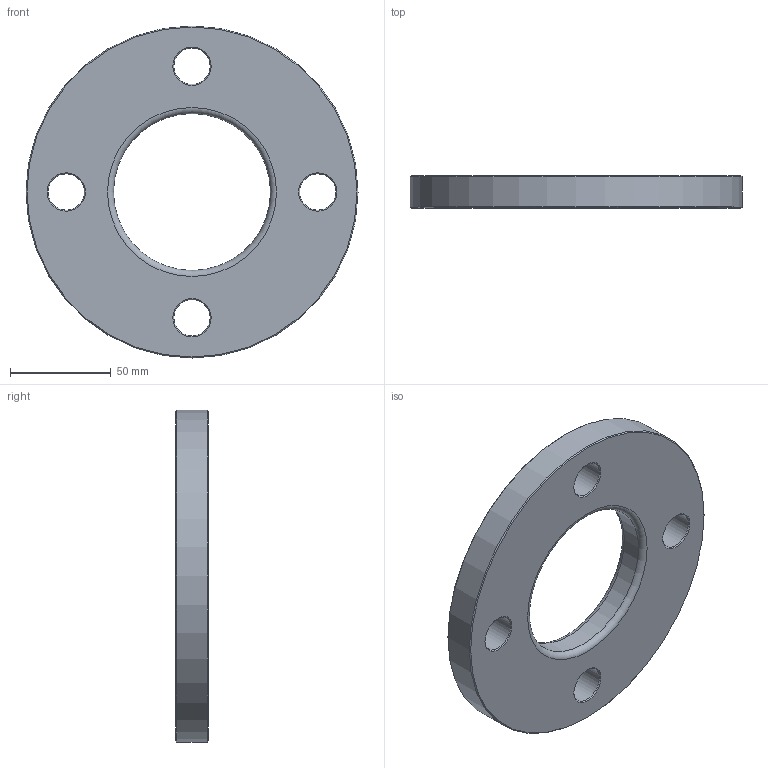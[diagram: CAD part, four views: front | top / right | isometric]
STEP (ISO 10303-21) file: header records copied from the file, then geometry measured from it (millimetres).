
FILE_DESCRIPTION(/* description */ ('Unknown'),/* implementation_level */ '2;1');
FILE_NAME(/* name */ 'FZ063L',/* time_stamp */ '2021-03-15T15:17:42+01:00',/* author */ ('Unknown'),/* organization */ ('Unknown'),/* preprocessor_version */ 'ST-DEVELOPER v16.7',/* originating_system */ 'Solid Edge',/* authorisation */ 'Unknown');
FILE_SCHEMA (('AUTOMOTIVE_DESIGN {1 0 10303 214 3 1 1}'));
Length unit declared in the file: millimetre
Products named in the file (1): FZ063L
Bounding box: 165 x 16 x 165 mm (x, y, z)
Volume: 248229.9 mm3; surface area: 45948.8 mm2
Topology: 1 solids, 1 shells, 20 faces, 54 edges, 36 vertices
Faces by surface type: cone 10, cylinder 6, plane 2, torus 2
Full cylindrical faces by diameter (mm): 18 x4, 78 x1, 165 x1
Entity records: 494 total; most frequent: DIRECTION 90, CARTESIAN_POINT 69, ORIENTED_EDGE 48, EDGE_LOOP 48, FACE_BOUND 48, AXIS2_PLACEMENT_3D 45, EDGE_CURVE 24, VERTEX_POINT 24
